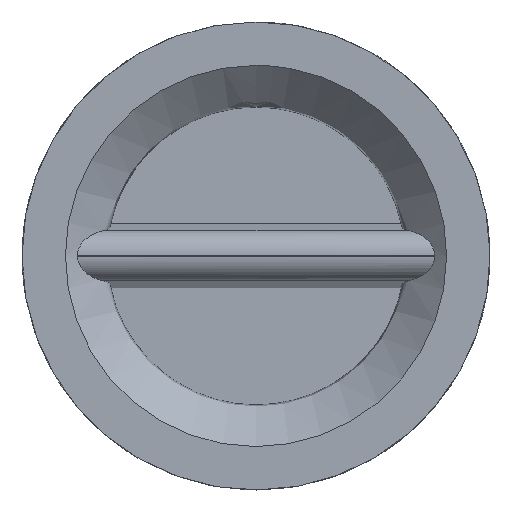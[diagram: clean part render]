
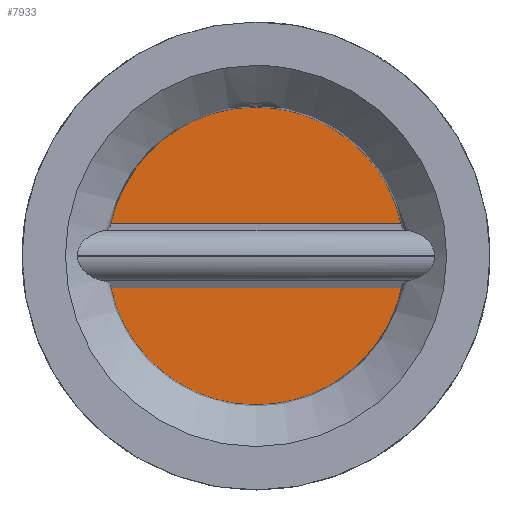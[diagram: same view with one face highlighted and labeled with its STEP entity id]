
A CAD part, front view. The second image highlights one B-rep face of the part: STEP entity #7933.
In plain terms, the highlighted planar face has unit normal (0, -1, 0).
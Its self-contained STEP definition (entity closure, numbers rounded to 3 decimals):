
#7933=ADVANCED_FACE('',(#14580,#14582),#14584,.T.);
#14580=FACE_BOUND('',#14581,.T.);
#14581=EDGE_LOOP('',(#19731));
#14582=FACE_BOUND('',#14583,.T.);
#14583=EDGE_LOOP('',(#19732));
#14584=PLANE('',#14585);
#14585=AXIS2_PLACEMENT_3D('',#14586,#14587,#14588);
#14586=CARTESIAN_POINT('',(0.,1120.237,394.982));
#14587=DIRECTION('',(0.,-1.,0.));
#14588=DIRECTION('',(0.,0.,-1.));
#19731=ORIENTED_EDGE('',*,*,#22307,.T.);
#19732=ORIENTED_EDGE('',*,*,#22310,.F.);
#22307=EDGE_CURVE('',#26562,#26562,#26563,.T.);
#22310=EDGE_CURVE('',#26568,#26568,#26569,.T.);
#26562=VERTEX_POINT('',#40114);
#26563=CIRCLE('',#40115,102.);
#26568=VERTEX_POINT('',#40129);
#26569=CIRCLE('',#40130,14.);
#40114=CARTESIAN_POINT('',(0.,1120.237,278.982));
#40115=AXIS2_PLACEMENT_3D('',#40116,#40117,#40118);
#40116=CARTESIAN_POINT('',(0.,1120.237,380.982));
#40117=DIRECTION('',(0.,-1.,0.));
#40118=DIRECTION('',(0.,0.,1.));
#40129=CARTESIAN_POINT('',(0.,1120.237,366.982));
#40130=AXIS2_PLACEMENT_3D('',#40131,#40132,#40133);
#40131=CARTESIAN_POINT('',(0.,1120.237,380.982));
#40132=DIRECTION('',(0.,-1.,0.));
#40133=DIRECTION('',(0.,0.,1.));
